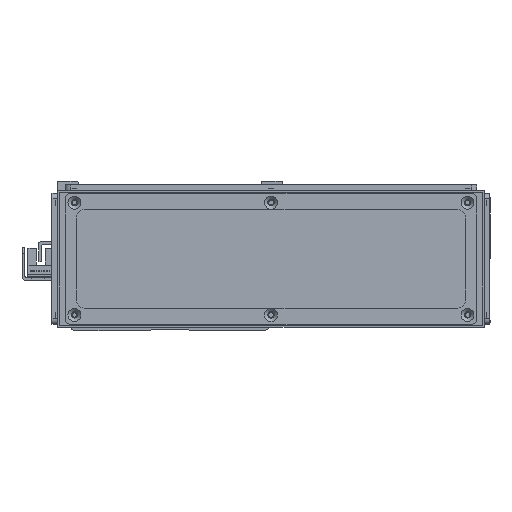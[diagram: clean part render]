
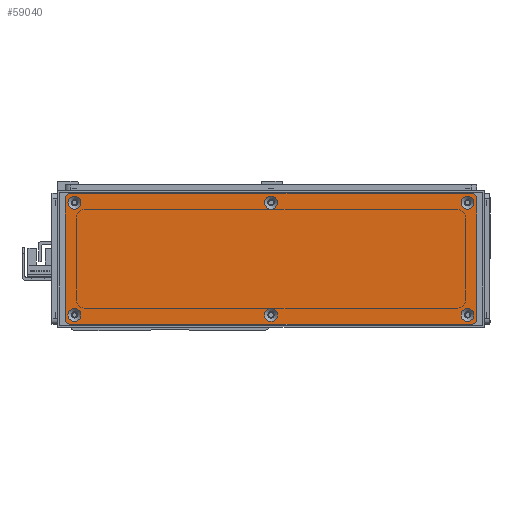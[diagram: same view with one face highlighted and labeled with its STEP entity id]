
A CAD part, front view. The second image highlights one B-rep face of the part: STEP entity #59040.
In plain terms, the highlighted planar face has unit normal (0, -1, 0).
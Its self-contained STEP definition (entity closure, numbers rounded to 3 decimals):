
#2579=FACE_BOUND('',#10169,.T.);
#2580=FACE_BOUND('',#10170,.T.);
#2581=FACE_BOUND('',#10171,.T.);
#2582=FACE_BOUND('',#10172,.T.);
#2583=FACE_BOUND('',#10173,.T.);
#2584=FACE_BOUND('',#10174,.T.);
#3889=CIRCLE('',#63625,3.45);
#3892=CIRCLE('',#63630,3.45);
#3895=CIRCLE('',#63635,3.45);
#3898=CIRCLE('',#63640,3.45);
#3901=CIRCLE('',#63645,3.45);
#3904=CIRCLE('',#63650,3.45);
#3907=CIRCLE('',#63655,3.);
#3909=CIRCLE('',#63658,3.);
#3910=CIRCLE('',#63659,3.);
#3911=CIRCLE('',#63660,3.);
#6789=FACE_OUTER_BOUND('',#10168,.T.);
#10168=EDGE_LOOP('',(#53391,#53392,#53393,#53394,#53395,#53396,#53397,#53398));
#10169=EDGE_LOOP('',(#53399));
#10170=EDGE_LOOP('',(#53400));
#10171=EDGE_LOOP('',(#53401));
#10172=EDGE_LOOP('',(#53402));
#10173=EDGE_LOOP('',(#53403));
#10174=EDGE_LOOP('',(#53404));
#16716=LINE('',#99087,#23313);
#16717=LINE('',#99091,#23314);
#16718=LINE('',#99095,#23315);
#16719=LINE('',#99098,#23316);
#23313=VECTOR('',#78507,10.);
#23314=VECTOR('',#78510,10.);
#23315=VECTOR('',#78513,10.);
#23316=VECTOR('',#78516,10.);
#28889=VERTEX_POINT('',#99017);
#28892=VERTEX_POINT('',#99027);
#28895=VERTEX_POINT('',#99037);
#28898=VERTEX_POINT('',#99047);
#28901=VERTEX_POINT('',#99057);
#28904=VERTEX_POINT('',#99067);
#28907=VERTEX_POINT('',#99077);
#28908=VERTEX_POINT('',#99078);
#28911=VERTEX_POINT('',#99086);
#28912=VERTEX_POINT('',#99088);
#28913=VERTEX_POINT('',#99090);
#28914=VERTEX_POINT('',#99092);
#28915=VERTEX_POINT('',#99094);
#28916=VERTEX_POINT('',#99096);
#37083=EDGE_CURVE('',#28889,#28889,#3889,.T.);
#37088=EDGE_CURVE('',#28892,#28892,#3892,.T.);
#37093=EDGE_CURVE('',#28895,#28895,#3895,.T.);
#37098=EDGE_CURVE('',#28898,#28898,#3898,.T.);
#37103=EDGE_CURVE('',#28901,#28901,#3901,.T.);
#37108=EDGE_CURVE('',#28904,#28904,#3904,.T.);
#37113=EDGE_CURVE('',#28907,#28908,#3907,.T.);
#37117=EDGE_CURVE('',#28907,#28911,#16716,.T.);
#37118=EDGE_CURVE('',#28912,#28911,#3909,.T.);
#37119=EDGE_CURVE('',#28912,#28913,#16717,.T.);
#37120=EDGE_CURVE('',#28914,#28913,#3910,.T.);
#37121=EDGE_CURVE('',#28914,#28915,#16718,.T.);
#37122=EDGE_CURVE('',#28916,#28915,#3911,.T.);
#37123=EDGE_CURVE('',#28916,#28908,#16719,.T.);
#53391=ORIENTED_EDGE('',*,*,#37113,.F.);
#53392=ORIENTED_EDGE('',*,*,#37117,.T.);
#53393=ORIENTED_EDGE('',*,*,#37118,.F.);
#53394=ORIENTED_EDGE('',*,*,#37119,.T.);
#53395=ORIENTED_EDGE('',*,*,#37120,.F.);
#53396=ORIENTED_EDGE('',*,*,#37121,.T.);
#53397=ORIENTED_EDGE('',*,*,#37122,.F.);
#53398=ORIENTED_EDGE('',*,*,#37123,.T.);
#53399=ORIENTED_EDGE('',*,*,#37083,.T.);
#53400=ORIENTED_EDGE('',*,*,#37088,.T.);
#53401=ORIENTED_EDGE('',*,*,#37093,.T.);
#53402=ORIENTED_EDGE('',*,*,#37098,.T.);
#53403=ORIENTED_EDGE('',*,*,#37103,.T.);
#53404=ORIENTED_EDGE('',*,*,#37108,.T.);
#56185=PLANE('',#63657);
#59040=ADVANCED_FACE('',(#6789,#2579,#2580,#2581,#2582,#2583,#2584),#56185,
 .T.);
#63625=AXIS2_PLACEMENT_3D('',#99018,#78427,#78428);
#63630=AXIS2_PLACEMENT_3D('',#99028,#78439,#78440);
#63635=AXIS2_PLACEMENT_3D('',#99038,#78451,#78452);
#63640=AXIS2_PLACEMENT_3D('',#99048,#78463,#78464);
#63645=AXIS2_PLACEMENT_3D('',#99058,#78475,#78476);
#63650=AXIS2_PLACEMENT_3D('',#99068,#78487,#78488);
#63655=AXIS2_PLACEMENT_3D('',#99079,#78499,#78500);
#63657=AXIS2_PLACEMENT_3D('',#99085,#78505,#78506);
#63658=AXIS2_PLACEMENT_3D('',#99089,#78508,#78509);
#63659=AXIS2_PLACEMENT_3D('',#99093,#78511,#78512);
#63660=AXIS2_PLACEMENT_3D('',#99097,#78514,#78515);
#78427=DIRECTION('center_axis',(0.,1.,0.));
#78428=DIRECTION('ref_axis',(1.,0.,0.));
#78439=DIRECTION('center_axis',(0.,1.,0.));
#78440=DIRECTION('ref_axis',(1.,0.,0.));
#78451=DIRECTION('center_axis',(0.,1.,0.));
#78452=DIRECTION('ref_axis',(1.,0.,0.));
#78463=DIRECTION('center_axis',(0.,1.,0.));
#78464=DIRECTION('ref_axis',(1.,0.,0.));
#78475=DIRECTION('center_axis',(0.,1.,0.));
#78476=DIRECTION('ref_axis',(1.,0.,0.));
#78487=DIRECTION('center_axis',(0.,1.,0.));
#78488=DIRECTION('ref_axis',(1.,0.,0.));
#78499=DIRECTION('center_axis',(0.,1.,0.));
#78500=DIRECTION('ref_axis',(-0.707,0.,0.707));
#78505=DIRECTION('center_axis',(0.,-1.,0.));
#78506=DIRECTION('ref_axis',(0.,0.,-1.));
#78507=DIRECTION('',(0.,0.,-1.));
#78508=DIRECTION('center_axis',(0.,1.,0.));
#78509=DIRECTION('ref_axis',(-0.707,0.,-0.707));
#78510=DIRECTION('',(1.,0.,0.));
#78511=DIRECTION('center_axis',(0.,1.,0.));
#78512=DIRECTION('ref_axis',(0.707,0.,-0.707));
#78513=DIRECTION('',(0.,0.,1.));
#78514=DIRECTION('center_axis',(0.,1.,0.));
#78515=DIRECTION('ref_axis',(0.707,0.,0.707));
#78516=DIRECTION('',(-1.,0.,0.));
#99017=CARTESIAN_POINT('',(101.55,-1.5,30.));
#99018=CARTESIAN_POINT('Origin',(105.,-1.5,30.));
#99027=CARTESIAN_POINT('',(-3.45,-1.5,-30.));
#99028=CARTESIAN_POINT('Origin',(0.,-1.5,-30.));
#99037=CARTESIAN_POINT('',(-108.45,-1.5,30.));
#99038=CARTESIAN_POINT('Origin',(-105.,-1.5,30.));
#99047=CARTESIAN_POINT('',(-108.45,-1.5,-30.));
#99048=CARTESIAN_POINT('Origin',(-105.,-1.5,-30.));
#99057=CARTESIAN_POINT('',(-3.45,-1.5,30.));
#99058=CARTESIAN_POINT('Origin',(0.,-1.5,30.));
#99067=CARTESIAN_POINT('',(101.55,-1.5,-30.));
#99068=CARTESIAN_POINT('Origin',(105.,-1.5,-30.));
#99077=CARTESIAN_POINT('',(-110.,-1.5,32.));
#99078=CARTESIAN_POINT('',(-107.,-1.5,35.));
#99079=CARTESIAN_POINT('Origin',(-107.,-1.5,32.));
#99085=CARTESIAN_POINT('Origin',(0.,-1.5,0.));
#99086=CARTESIAN_POINT('',(-110.,-1.5,-32.));
#99087=CARTESIAN_POINT('',(-110.,-1.5,35.));
#99088=CARTESIAN_POINT('',(-107.,-1.5,-35.));
#99089=CARTESIAN_POINT('Origin',(-107.,-1.5,-32.));
#99090=CARTESIAN_POINT('',(107.,-1.5,-35.));
#99091=CARTESIAN_POINT('',(-110.,-1.5,-35.));
#99092=CARTESIAN_POINT('',(110.,-1.5,-32.));
#99093=CARTESIAN_POINT('Origin',(107.,-1.5,-32.));
#99094=CARTESIAN_POINT('',(110.,-1.5,32.));
#99095=CARTESIAN_POINT('',(110.,-1.5,-35.));
#99096=CARTESIAN_POINT('',(107.,-1.5,35.));
#99097=CARTESIAN_POINT('Origin',(107.,-1.5,32.));
#99098=CARTESIAN_POINT('',(110.,-1.5,35.));
